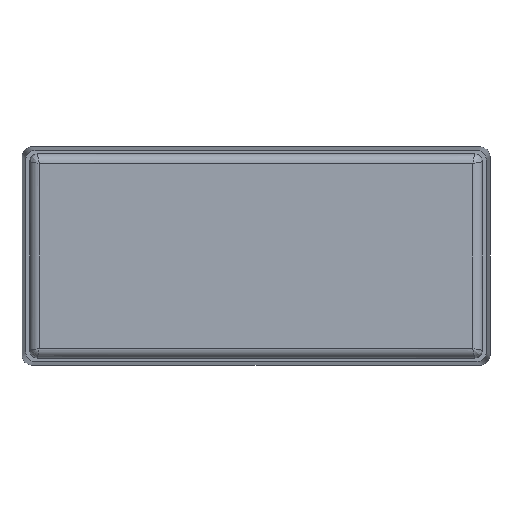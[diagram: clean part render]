
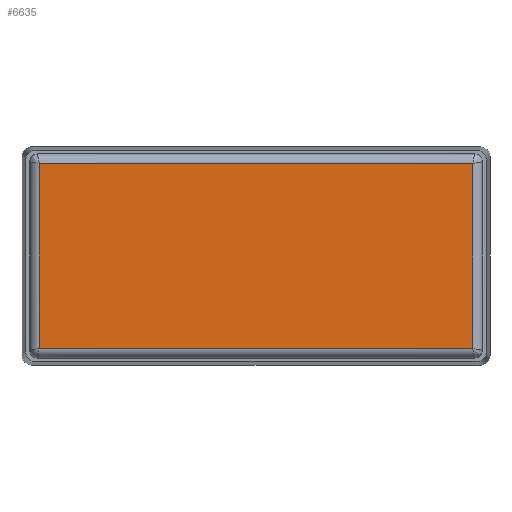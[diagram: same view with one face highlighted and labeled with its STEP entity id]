
A CAD part, front view. The second image highlights one B-rep face of the part: STEP entity #6635.
In plain terms, the highlighted planar face has unit normal (0, -1, 0).
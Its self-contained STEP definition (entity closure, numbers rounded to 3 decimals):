
#119 = LINE ( 'NONE', #4105, #1775 ) ;
#163 = EDGE_CURVE ( 'NONE', #6216, #6820, #7027, .T. ) ;
#280 = ORIENTED_EDGE ( 'NONE', *, *, #1463, .T. ) ;
#289 = VECTOR ( 'NONE', #6047, 1000. ) ;
#579 = AXIS2_PLACEMENT_3D ( 'NONE', #7647, #1205, #6238 ) ;
#648 = CARTESIAN_POINT ( 'NONE',  ( -55.85, -38.5, -26.3 ) ) ;
#1170 = DIRECTION ( 'NONE',  ( 1., 0., 0. ) ) ;
#1205 = DIRECTION ( 'NONE',  ( 0., 1., 0. ) ) ;
#1248 = FACE_OUTER_BOUND ( 'NONE', #7208, .T. ) ;
#1463 = EDGE_CURVE ( 'NONE', #1707, #6216, #7388, .T. ) ;
#1707 = VERTEX_POINT ( 'NONE', #3681 ) ;
#1775 = VECTOR ( 'NONE', #3397, 1000. ) ;
#2128 = ORIENTED_EDGE ( 'NONE', *, *, #8149, .T. ) ;
#2146 = CARTESIAN_POINT ( 'NONE',  ( 55.85, -38.5, 23.8 ) ) ;
#2793 = ORIENTED_EDGE ( 'NONE', *, *, #163, .T. ) ;
#3397 = DIRECTION ( 'NONE',  ( -1., 0., 0. ) ) ;
#3505 = DIRECTION ( 'NONE',  ( 0., 0., -1. ) ) ;
#3681 = CARTESIAN_POINT ( 'NONE',  ( -55.85, -38.5, -23.8 ) ) ;
#4105 = CARTESIAN_POINT ( 'NONE',  ( -58.35, -38.5, 23.8 ) ) ;
#4699 = VERTEX_POINT ( 'NONE', #6948 ) ;
#5235 = ORIENTED_EDGE ( 'NONE', *, *, #5945, .T. ) ;
#5513 = PLANE ( 'NONE',  #579 ) ;
#5945 = EDGE_CURVE ( 'NONE', #4699, #1707, #8298, .T. ) ;
#6047 = DIRECTION ( 'NONE',  ( 0., 0., 1. ) ) ;
#6120 = CARTESIAN_POINT ( 'NONE',  ( 55.85, -38.5, 26.3 ) ) ;
#6169 = VECTOR ( 'NONE', #3505, 1000. ) ;
#6216 = VERTEX_POINT ( 'NONE', #8658 ) ;
#6238 = DIRECTION ( 'NONE',  ( 0., 0., 1. ) ) ;
#6635 = ADVANCED_FACE ( 'NONE', ( #1248 ), #5513, .F. ) ;
#6820 = VERTEX_POINT ( 'NONE', #2146 ) ;
#6948 = CARTESIAN_POINT ( 'NONE',  ( -55.85, -38.5, 23.8 ) ) ;
#7027 = LINE ( 'NONE', #6120, #289 ) ;
#7208 = EDGE_LOOP ( 'NONE', ( #280, #2793, #2128, #5235 ) ) ;
#7388 = LINE ( 'NONE', #9164, #9268 ) ;
#7647 = CARTESIAN_POINT ( 'NONE',  ( 0., -38.5, 0. ) ) ;
#8149 = EDGE_CURVE ( 'NONE', #6820, #4699, #119, .T. ) ;
#8298 = LINE ( 'NONE', #648, #6169 ) ;
#8658 = CARTESIAN_POINT ( 'NONE',  ( 55.85, -38.5, -23.8 ) ) ;
#9164 = CARTESIAN_POINT ( 'NONE',  ( 58.35, -38.5, -23.8 ) ) ;
#9268 = VECTOR ( 'NONE', #1170, 1000. ) ;
